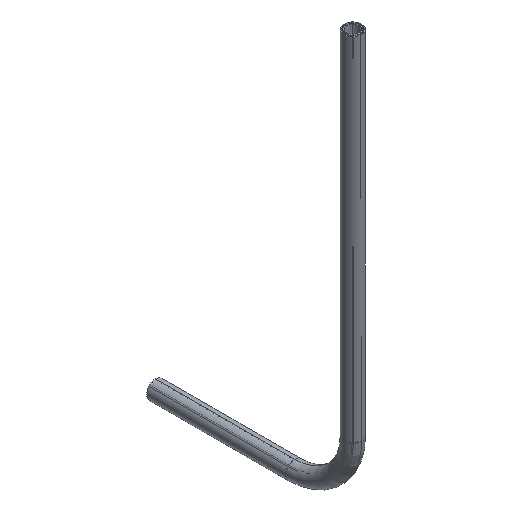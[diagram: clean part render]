
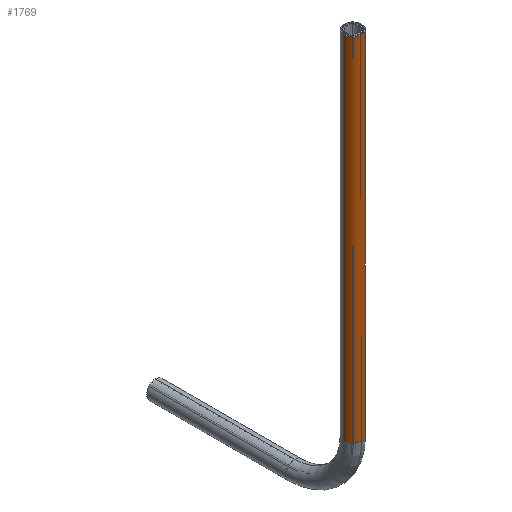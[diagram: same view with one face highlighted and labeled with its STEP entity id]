
A CAD part, isometric view. The second image highlights one B-rep face of the part: STEP entity #1769.
In plain terms, the highlighted cylindrical face has radius 20 mm (diameter 40 mm), a partial arc.
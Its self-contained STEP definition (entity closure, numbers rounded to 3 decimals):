
#56 = DIRECTION ( 'NONE',  ( 0., 0., -1. ) ) ;
#214 = EDGE_CURVE ( 'NONE', #3041, #430, #3359, .T. ) ;
#269 = DIRECTION ( 'NONE',  ( 1., 0., 0. ) ) ;
#336 = CIRCLE ( 'NONE', #630, 20. ) ;
#430 = VERTEX_POINT ( 'NONE', #1548 ) ;
#472 = CARTESIAN_POINT ( 'NONE',  ( 0., 0., -170. ) ) ;
#510 = EDGE_CURVE ( 'NONE', #863, #1072, #336, .T. ) ;
#556 = ORIENTED_EDGE ( 'NONE', *, *, #3155, .F. ) ;
#597 = DIRECTION ( 'NONE',  ( 0., 0., -1. ) ) ;
#606 = FACE_OUTER_BOUND ( 'NONE', #2758, .T. ) ;
#628 = AXIS2_PLACEMENT_3D ( 'NONE', #1421, #56, #1152 ) ;
#630 = AXIS2_PLACEMENT_3D ( 'NONE', #2117, #1778, #2344 ) ;
#745 = CARTESIAN_POINT ( 'NONE',  ( 0., -20., -170. ) ) ;
#785 = DIRECTION ( 'NONE',  ( 0., 0., -1. ) ) ;
#818 = CARTESIAN_POINT ( 'NONE',  ( 20., 0., -170. ) ) ;
#863 = VERTEX_POINT ( 'NONE', #1591 ) ;
#1071 = CARTESIAN_POINT ( 'NONE',  ( 20., 0., 615. ) ) ;
#1072 = VERTEX_POINT ( 'NONE', #745 ) ;
#1120 = CARTESIAN_POINT ( 'NONE',  ( -20., 0., 615. ) ) ;
#1152 = DIRECTION ( 'NONE',  ( -1., 0., 0. ) ) ;
#1292 = VECTOR ( 'NONE', #785, 1000. ) ;
#1315 = AXIS2_PLACEMENT_3D ( 'NONE', #2439, #3196, #269 ) ;
#1366 = LINE ( 'NONE', #3233, #1292 ) ;
#1421 = CARTESIAN_POINT ( 'NONE',  ( 0., 0., 615. ) ) ;
#1454 = AXIS2_PLACEMENT_3D ( 'NONE', #472, #2375, #1810 ) ;
#1493 = ORIENTED_EDGE ( 'NONE', *, *, #510, .T. ) ;
#1530 = ORIENTED_EDGE ( 'NONE', *, *, #3007, .T. ) ;
#1548 = CARTESIAN_POINT ( 'NONE',  ( 20., 0., 615. ) ) ;
#1591 = CARTESIAN_POINT ( 'NONE',  ( -20., 0., -170. ) ) ;
#1769 = ADVANCED_FACE ( 'NONE', ( #606 ), #2788, .T. ) ;
#1778 = DIRECTION ( 'NONE',  ( 0., 0., 1. ) ) ;
#1810 = DIRECTION ( 'NONE',  ( 1., 0., 0. ) ) ;
#2117 = CARTESIAN_POINT ( 'NONE',  ( 0., 0., -170. ) ) ;
#2344 = DIRECTION ( 'NONE',  ( 1., 0., 0. ) ) ;
#2375 = DIRECTION ( 'NONE',  ( 0., 0., 1. ) ) ;
#2439 = CARTESIAN_POINT ( 'NONE',  ( 0., 0., 615. ) ) ;
#2508 = VERTEX_POINT ( 'NONE', #818 ) ;
#2509 = LINE ( 'NONE', #1071, #3446 ) ;
#2730 = EDGE_CURVE ( 'NONE', #1072, #2508, #3324, .T. ) ;
#2758 = EDGE_LOOP ( 'NONE', ( #556, #3166, #1530, #1493, #2818 ) ) ;
#2788 = CYLINDRICAL_SURFACE ( 'NONE', #628, 20. ) ;
#2818 = ORIENTED_EDGE ( 'NONE', *, *, #2730, .T. ) ;
#3007 = EDGE_CURVE ( 'NONE', #3041, #863, #1366, .T. ) ;
#3041 = VERTEX_POINT ( 'NONE', #1120 ) ;
#3155 = EDGE_CURVE ( 'NONE', #430, #2508, #2509, .T. ) ;
#3166 = ORIENTED_EDGE ( 'NONE', *, *, #214, .F. ) ;
#3196 = DIRECTION ( 'NONE',  ( 0., 0., 1. ) ) ;
#3233 = CARTESIAN_POINT ( 'NONE',  ( -20., 0., 615. ) ) ;
#3324 = CIRCLE ( 'NONE', #1454, 20. ) ;
#3359 = CIRCLE ( 'NONE', #1315, 20. ) ;
#3446 = VECTOR ( 'NONE', #597, 1000. ) ;
